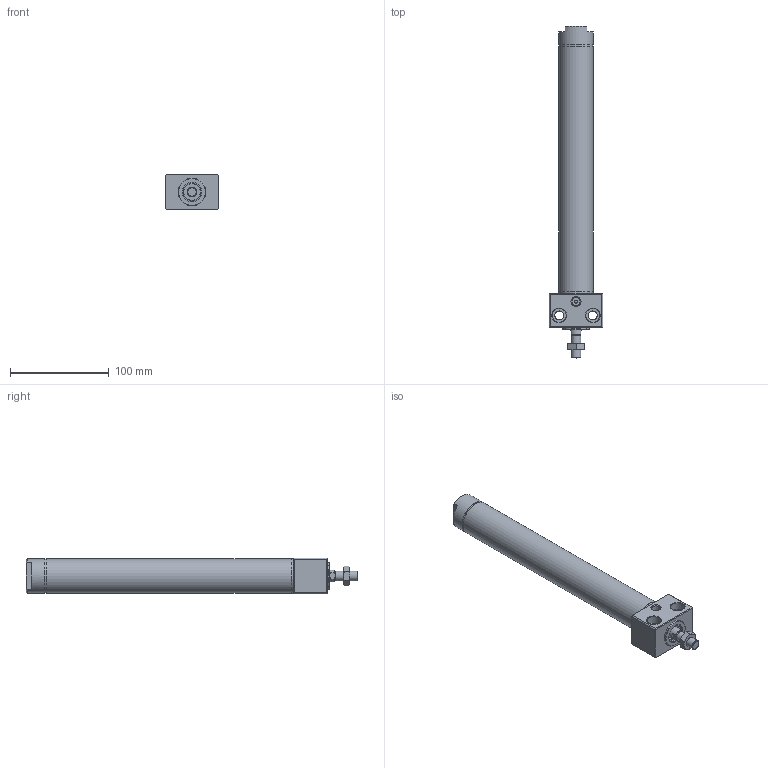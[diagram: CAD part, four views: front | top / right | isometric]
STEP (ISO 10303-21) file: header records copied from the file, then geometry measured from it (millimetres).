
FILE_DESCRIPTION((''),'2;1');
FILE_NAME('I:\3D電子目錄\氣缸\DBS\DBS\DBS30x200.stp','2007-10-08T08:44:02',('Administrator'),(''),'Autodesk Inventor 2008','Autodesk Inventor 2008','');
FILE_SCHEMA(('AUTOMOTIVE_DESIGN { 1 0 10303 214 1 1 1 1 }'));
Length unit declared in the file: millimetre
Products named in the file (1): DBS30x200
Bounding box: 54 x 335.6 x 36 mm (x, y, z)
Volume: 175706.7 mm3; surface area: 85020.5 mm2
Topology: 6 solids, 6 shells, 167 faces, 331 edges, 199 vertices
Faces by surface type: plane 75, cone 42, cylinder 35, bspline 12, torus 3
Full cylindrical faces by diameter (mm): 3 x1, 6.5 x1, 8 x1, 9 x1, 10 x2, 12 x1, 12.5 x1, 14 x1, 16 x1, 17 x2, 20 x2, 21 x3, 24 x2, 28 x3, 28.5 x2, 30 x1, 32.2 x6, 35 x4
Entity records: 4090 total; most frequent: CARTESIAN_POINT 934, DIRECTION 664, ORIENTED_EDGE 506, AXIS2_PLACEMENT_3D 291, EDGE_LOOP 280, EDGE_CURVE 253, VERTEX_POINT 193, FACE_OUTER_BOUND 167
